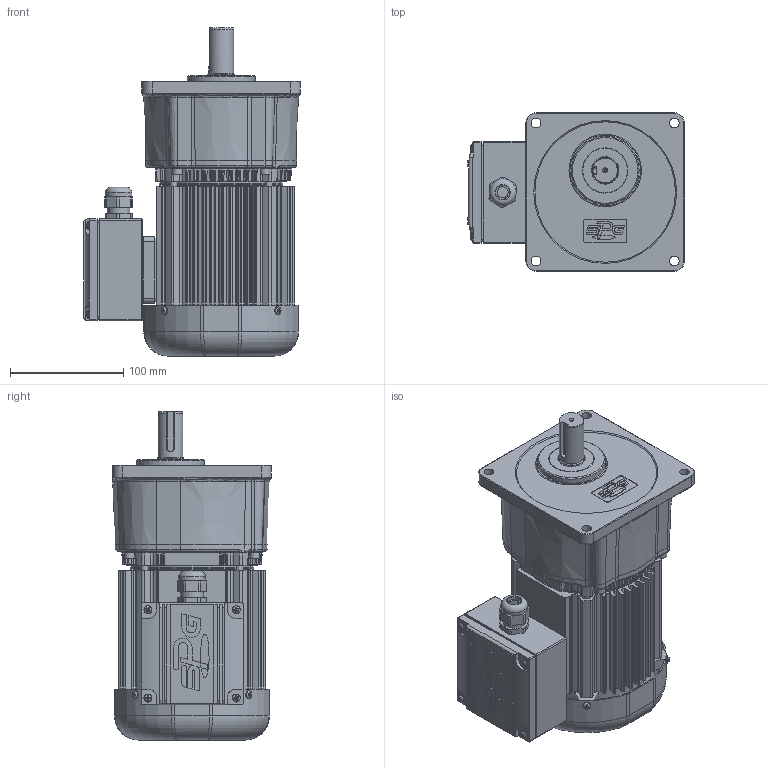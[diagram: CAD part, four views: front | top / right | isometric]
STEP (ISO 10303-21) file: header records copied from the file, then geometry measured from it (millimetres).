
FILE_DESCRIPTION(/* description */ (''),/* implementation_level */ '2;1');
FILE_NAME(/* name */ 'Z:\동력 3D 파일\PAK22_0.2kW_3D.stp',/* time_stamp */ '2021-11-09T08:28:54+09:00',/* author */ ('jaebok'),/* organization */ (''),/* preprocessor_version */ 'ST-DEVELOPER v18.1',/* originating_system */ 'Autodesk Inventor 2022',/* authorisation */ '');
FILE_SCHEMA (('AUTOMOTIVE_DESIGN { 1 0 10303 214 3 1 1 }'));
Products named in the file (1): 부품3
Bounding box: 191.5 x 140 x 289.5 mm (x, y, z)
Volume: 1141796.2 mm3; surface area: 458077.1 mm2
Topology: 2 solids, 36 shells, 2905 faces, 7408 edges, 4458 vertices
Faces by surface type: plane 952, cylinder 776, bspline 654, torus 293, cone 172, sphere 58
Full cylindrical faces by diameter (mm): 2 x1, 3.242 x9, 3.25 x1, 3.6 x4, 4 x21, 4.2 x4, 4.917 x4, 5 x19, 5.386 x4, 5.5 x4, 6 x8, 7 x12, 8 x5, 8.5 x4, 8.6 x4, 10 x1, 12.5 x1, 13 x1, 14 x1, 15 x1, 20 x3, 21 x1, 22 x2, 23.6 x2, 24 x1, 25 x2, 27 x1, 28 x1, 32 x2, 34 x1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
Entity records: 117718 total; most frequent: CARTESIAN_POINT 48808, ORIENTED_EDGE 14410, DIRECTION 12871, EDGE_CURVE 7205, AXIS2_PLACEMENT_3D 5165, VERTEX_POINT 4458, EDGE_LOOP 3098, FACE_OUTER_BOUND 2905
